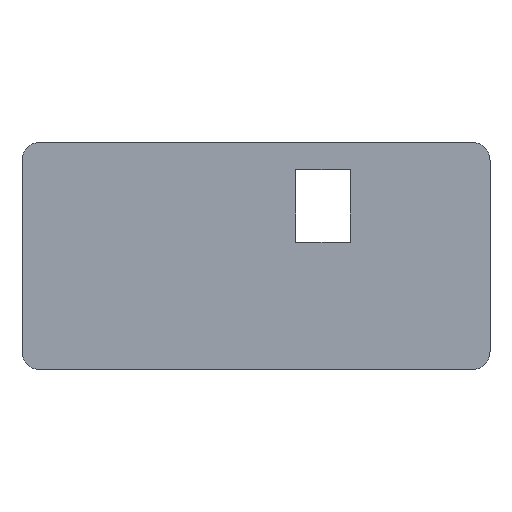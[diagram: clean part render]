
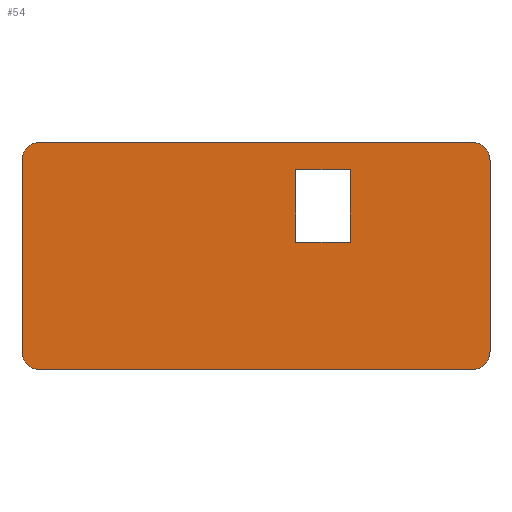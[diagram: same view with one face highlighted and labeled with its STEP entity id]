
A CAD part, top view. The second image highlights one B-rep face of the part: STEP entity #54.
In plain terms, the highlighted planar face has unit normal (0, 0, 1).
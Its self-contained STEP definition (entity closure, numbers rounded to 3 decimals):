
#54 = ADVANCED_FACE( '', ( #107, #108 ), #109, .T. );
#107 = FACE_BOUND( '', #158, .T. );
#108 = FACE_OUTER_BOUND( '', #159, .T. );
#109 = PLANE( '', #160 );
#158 = EDGE_LOOP( '', ( #243, #244, #245, #246 ) );
#159 = EDGE_LOOP( '', ( #247, #248, #249, #250, #251, #252, #253, #254 ) );
#160 = AXIS2_PLACEMENT_3D( '', #255, #256, #257 );
#243 = ORIENTED_EDGE( '', *, *, #316, .F. );
#244 = ORIENTED_EDGE( '', *, *, #312, .F. );
#245 = ORIENTED_EDGE( '', *, *, #308, .F. );
#246 = ORIENTED_EDGE( '', *, *, #338, .F. );
#247 = ORIENTED_EDGE( '', *, *, #341, .T. );
#248 = ORIENTED_EDGE( '', *, *, #334, .T. );
#249 = ORIENTED_EDGE( '', *, *, #330, .T. );
#250 = ORIENTED_EDGE( '', *, *, #325, .T. );
#251 = ORIENTED_EDGE( '', *, *, #342, .T. );
#252 = ORIENTED_EDGE( '', *, *, #343, .T. );
#253 = ORIENTED_EDGE( '', *, *, #322, .T. );
#254 = ORIENTED_EDGE( '', *, *, #344, .T. );
#255 = CARTESIAN_POINT( '', ( 0., 0., 3. ) );
#256 = DIRECTION( '', ( 0., 0., 1. ) );
#257 = DIRECTION( '', ( 1., 0., 0. ) );
#308 = EDGE_CURVE( '', #358, #360, #361, .T. );
#312 = EDGE_CURVE( '', #360, #366, #367, .T. );
#316 = EDGE_CURVE( '', #366, #372, #373, .T. );
#322 = EDGE_CURVE( '', #383, #381, #384, .T. );
#325 = EDGE_CURVE( '', #387, #388, #389, .T. );
#330 = EDGE_CURVE( '', #396, #387, #397, .T. );
#334 = EDGE_CURVE( '', #402, #396, #403, .T. );
#338 = EDGE_CURVE( '', #372, #358, #408, .T. );
#341 = EDGE_CURVE( '', #411, #402, #412, .T. );
#342 = EDGE_CURVE( '', #388, #413, #414, .T. );
#343 = EDGE_CURVE( '', #413, #383, #415, .T. );
#344 = EDGE_CURVE( '', #381, #411, #416, .T. );
#358 = VERTEX_POINT( '', #432 );
#360 = VERTEX_POINT( '', #435 );
#361 = LINE( '', #436, #437 );
#366 = VERTEX_POINT( '', #444 );
#367 = LINE( '', #445, #446 );
#372 = VERTEX_POINT( '', #453 );
#373 = LINE( '', #454, #455 );
#381 = VERTEX_POINT( '', #466 );
#383 = VERTEX_POINT( '', #469 );
#384 = LINE( '', #470, #471 );
#387 = VERTEX_POINT( '', #475 );
#388 = VERTEX_POINT( '', #476 );
#389 = CIRCLE( '', #477, 10. );
#396 = VERTEX_POINT( '', #486 );
#397 = LINE( '', #487, #488 );
#402 = VERTEX_POINT( '', #495 );
#403 = CIRCLE( '', #496, 10. );
#408 = LINE( '', #502, #503 );
#411 = VERTEX_POINT( '', #507 );
#412 = LINE( '', #508, #509 );
#413 = VERTEX_POINT( '', #510 );
#414 = LINE( '', #511, #512 );
#415 = CIRCLE( '', #513, 10. );
#416 = CIRCLE( '', #514, 10. );
#432 = CARTESIAN_POINT( '', ( 180.3, 70., 3. ) );
#435 = CARTESIAN_POINT( '', ( 180.3, 110., 3. ) );
#436 = CARTESIAN_POINT( '', ( 180.3, 70., 3. ) );
#437 = VECTOR( '', #533, 1000. );
#444 = CARTESIAN_POINT( '', ( 150.3, 110., 3. ) );
#445 = CARTESIAN_POINT( '', ( 180.3, 110., 3. ) );
#446 = VECTOR( '', #536, 1000. );
#453 = CARTESIAN_POINT( '', ( 150.3, 70., 3. ) );
#454 = CARTESIAN_POINT( '', ( 150.3, 110., 3. ) );
#455 = VECTOR( '', #539, 1000. );
#466 = CARTESIAN_POINT( '', ( 257., 115., 3. ) );
#469 = CARTESIAN_POINT( '', ( 257., 10., 3. ) );
#470 = CARTESIAN_POINT( '', ( 257., 0., 3. ) );
#471 = VECTOR( '', #544, 1000. );
#475 = CARTESIAN_POINT( '', ( 0., 10., 3. ) );
#476 = CARTESIAN_POINT( '', ( 10., 0., 3. ) );
#477 = AXIS2_PLACEMENT_3D( '', #546, #547, #548 );
#486 = CARTESIAN_POINT( '', ( 0., 115., 3. ) );
#487 = CARTESIAN_POINT( '', ( 0., 125., 3. ) );
#488 = VECTOR( '', #554, 1000. );
#495 = CARTESIAN_POINT( '', ( 10., 125., 3. ) );
#496 = AXIS2_PLACEMENT_3D( '', #557, #558, #559 );
#502 = CARTESIAN_POINT( '', ( 150.3, 70., 3. ) );
#503 = VECTOR( '', #564, 1000. );
#507 = CARTESIAN_POINT( '', ( 247., 125., 3. ) );
#508 = CARTESIAN_POINT( '', ( 257., 125., 3. ) );
#509 = VECTOR( '', #566, 1000. );
#510 = CARTESIAN_POINT( '', ( 247., 0., 3. ) );
#511 = CARTESIAN_POINT( '', ( 0., 0., 3. ) );
#512 = VECTOR( '', #567, 1000. );
#513 = AXIS2_PLACEMENT_3D( '', #568, #569, #570 );
#514 = AXIS2_PLACEMENT_3D( '', #571, #572, #573 );
#533 = DIRECTION( '', ( 0., 1., 0. ) );
#536 = DIRECTION( '', ( -1., 0., 0. ) );
#539 = DIRECTION( '', ( 0., -1., 0. ) );
#544 = DIRECTION( '', ( 0., 1., 0. ) );
#546 = CARTESIAN_POINT( '', ( 10., 10., 3. ) );
#547 = DIRECTION( '', ( 0., 0., 1. ) );
#548 = DIRECTION( '', ( 1., 0., 0. ) );
#554 = DIRECTION( '', ( 0., -1., 0. ) );
#557 = CARTESIAN_POINT( '', ( 10., 115., 3. ) );
#558 = DIRECTION( '', ( 0., 0., 1. ) );
#559 = DIRECTION( '', ( 1., 0., 0. ) );
#564 = DIRECTION( '', ( 1., 0., 0. ) );
#566 = DIRECTION( '', ( -1., 0., 0. ) );
#567 = DIRECTION( '', ( 1., 0., 0. ) );
#568 = CARTESIAN_POINT( '', ( 247., 10., 3. ) );
#569 = DIRECTION( '', ( 0., 0., 1. ) );
#570 = DIRECTION( '', ( 1., 0., 0. ) );
#571 = CARTESIAN_POINT( '', ( 247., 115., 3. ) );
#572 = DIRECTION( '', ( 0., 0., 1. ) );
#573 = DIRECTION( '', ( 1., 0., 0. ) );
